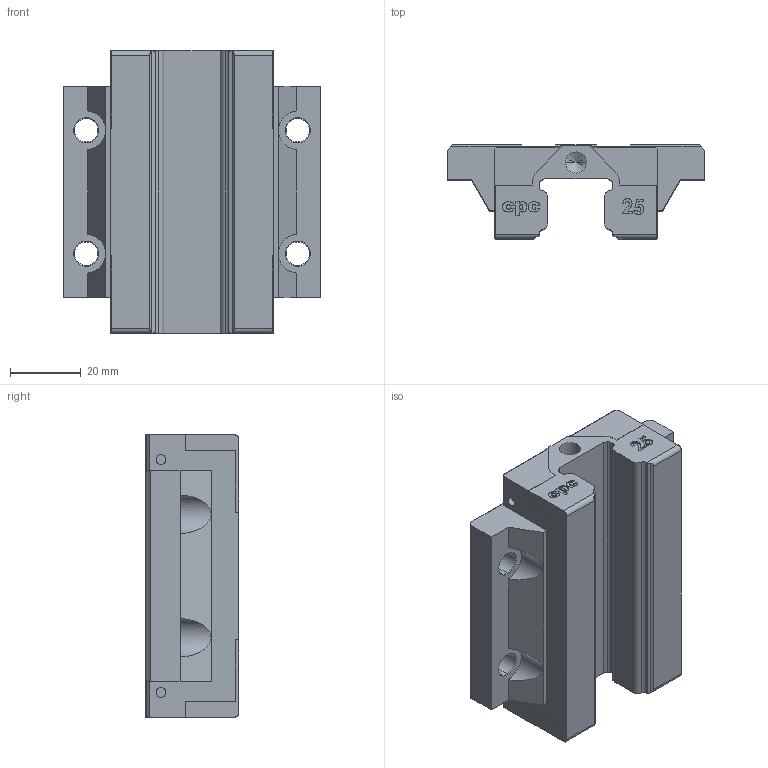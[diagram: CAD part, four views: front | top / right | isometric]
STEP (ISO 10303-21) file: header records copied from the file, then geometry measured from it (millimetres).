
FILE_DESCRIPTION (( 'STEP AP203' ), '1' );
FILE_NAME ('AR25FN.STEP', '2009-08-04T05:23:55', ( 'cpc' ), ( '' ), 'SwSTEP 2.0', 'SolidWorks 2007', '' );
FILE_SCHEMA (( 'CONFIG_CONTROL_DESIGN' ));
Length unit declared in the file: millimetre
Products named in the file (1): AR25FN
Bounding box: 73 x 26.6 x 80.2 mm (x, y, z)
Volume: 90323.8 mm3; surface area: 20714.1 mm2
Topology: 1 solids, 1 shells, 320 faces, 870 edges, 570 vertices
Faces by surface type: plane 158, bspline 86, cylinder 56, cone 20
Entity records: 14439 total; most frequent: CARTESIAN_POINT 6847, ORIENTED_EDGE 1732, DIRECTION 1252, EDGE_CURVE 866, VERTEX_POINT 570, VECTOR 558, LINE 558, EDGE_LOOP 350
